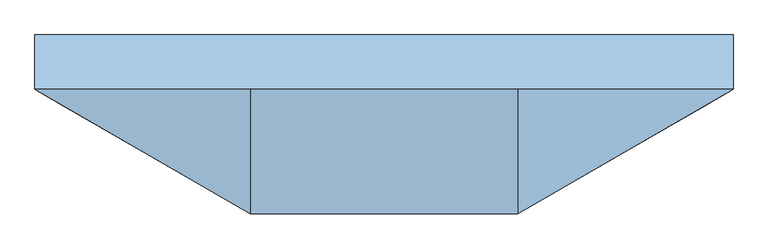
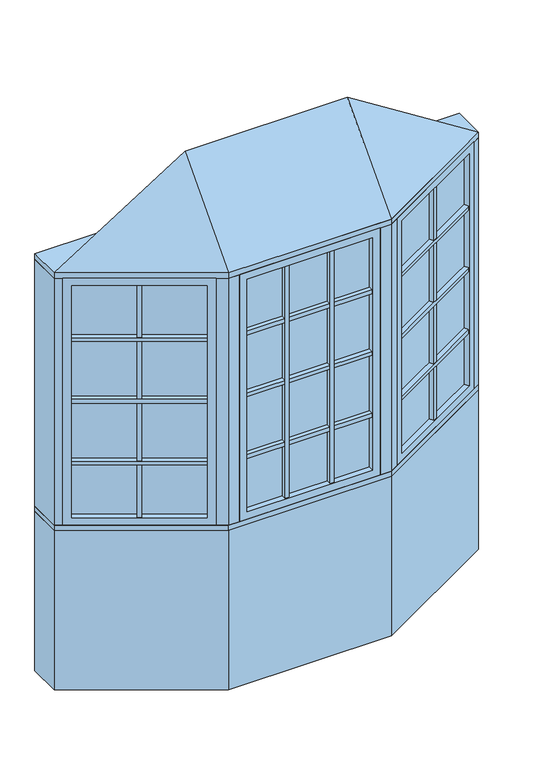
"""IFC4 building model written with IfcOpenShell, lengths in millimetres: window geometry, Pollard_Windows_Tudor Casement Bows and Bays : AML-BAY 30 AFR0612-08-600_GC."""

import ifcopenshell
import ifcopenshell.guid

model = None  # the IFC model being written
_history = None  # IfcOwnerHistory: only IFC2X3 demands one
_inside = {}  # id of a spatial element -> (the spatial element, [elements in it])
_under = {}  # id of a project, library or spatial element -> (it, [spatial elements below it])
_declared = {}  # id of a project -> (the project, [libraries it declares])
_typed = {}  # id of a type object -> (the type object, [elements of that type])
_made_of = {}  # id of a material, layer set ... -> (it, [elements and type objects made of it])


def new_model(schema):
    """Start an empty IFC model of exactly this schema.

    Asked for "IFC4X3", IfcOpenShell would pick the latest addendum, in which some entities
    have other attributes; the version numbers below select the first issue.
    IFC2X3 requires an IfcOwnerHistory on every rooted entity: one is made here for all.
    """
    global model, _history
    if schema == "IFC4X3":
        model = ifcopenshell.file(schema_version=(4, 3, 0, 0))
    else:
        model = ifcopenshell.file(schema=schema)
    _inside.clear()
    _under.clear()
    _declared.clear()
    _typed.clear()
    _made_of.clear()
    _history = None
    if model.schema == "IFC2X3":
        org = make("IfcOrganization", Name="unknown")
        user = make(
            "IfcPersonAndOrganization",
            ThePerson=make("IfcPerson", FamilyName="unknown"),
            TheOrganization=org,
        )
        app = make(
            "IfcApplication",
            ApplicationDeveloper=org,
            Version="unknown",
            ApplicationFullName="unknown",
            ApplicationIdentifier="unknown",
        )
        _history = make(
            "IfcOwnerHistory",
            OwningUser=user,
            OwningApplication=app,
            ChangeAction="ADDED",
            CreationDate=0,
        )
    return model


def make(cls, **values):
    """One entity of the class cls with the attributes given. An attribute that is None is left unset."""
    return model.create_entity(
        cls, **{name: value for name, value in values.items() if value is not None}
    )


def rooted(cls, **values):
    """An entity with a GlobalId (a new one), such as an element, a storey or a relation."""
    return make(cls, GlobalId=ifcopenshell.guid.new(), OwnerHistory=_history, **values)


def si_unit(unit_type, name, prefix=None):
    """IfcSIUnit, for example si_unit("LENGTHUNIT", "METRE", prefix="MILLI")."""
    return make("IfcSIUnit", UnitType=unit_type, Prefix=prefix, Name=name)


def assignment(units):
    """IfcUnitAssignment: the units of a project."""
    return None if units is None else make("IfcUnitAssignment", Units=units)


def point(xyz):
    """IfcCartesianPoint."""
    return None if xyz is None else make("IfcCartesianPoint", Coordinates=xyz)


def direction(xyz):
    """IfcDirection."""
    return None if xyz is None else make("IfcDirection", DirectionRatios=xyz)


def frame(location, z_axis=None, x_axis=None):
    """IfcAxis2Placement3D, a coordinate frame: its origin and axes. An axis left out is left unset."""
    return make(
        "IfcAxis2Placement3D",
        Location=point(location),
        Axis=direction(z_axis),
        RefDirection=direction(x_axis),
    )


def origin():
    """The frame at (0, 0, 0) with its axes left unset."""
    return frame((0.0, 0.0, 0.0))


def origin_with_axes():
    """The frame at (0, 0, 0) with the z axis (0, 0, 1) and the x axis (1, 0, 0) written out."""
    return frame((0.0, 0.0, 0.0), z_axis=(0.0, 0.0, 1.0), x_axis=(1.0, 0.0, 0.0))


def place(relative_to, where):
    """IfcLocalPlacement: puts the frame where relative to a parent placement (None: the world)."""
    return make(
        "IfcLocalPlacement", PlacementRelTo=relative_to, RelativePlacement=where
    )


def context(
    kind, dimensions, precision=None, world=None, true_north=None, identifier=None
):
    """IfcGeometricRepresentationContext, for example the 3D "Model" context."""
    return make(
        "IfcGeometricRepresentationContext",
        ContextIdentifier=identifier,
        ContextType=kind,
        CoordinateSpaceDimension=dimensions,
        Precision=precision,
        WorldCoordinateSystem=world,
        TrueNorth=true_north,
    )


def project(units=None, contexts=None):
    """IfcProject with its units and contexts."""
    return rooted(
        "IfcProject",
        Name="project",
        RepresentationContexts=contexts,
        UnitsInContext=assignment(units),
    )


def spatial(cls, under=None, at=None, **own):
    """A site, building, storey or space (cls), placed at a placement, below another one or the project."""
    s = rooted(cls, ObjectPlacement=at, **own)
    if under is not None:
        _under.setdefault(under.id(), (under, []))[1].append(s)
    return s


def polyline(points):
    """IfcPolyline through the points."""
    return make("IfcPolyline", Points=[point(p) for p in points])


def outline(outer, holes=None, kind="AREA"):
    """IfcArbitraryClosedProfileDef: a profile drawn as a closed curve; with holes, ...WithVoids."""
    if holes is None:
        return make("IfcArbitraryClosedProfileDef", ProfileType=kind, OuterCurve=outer)
    return make(
        "IfcArbitraryProfileDefWithVoids",
        ProfileType=kind,
        OuterCurve=outer,
        InnerCurves=holes,
    )


def extrude(swept, where, along, depth):
    """IfcExtrudedAreaSolid: the profile swept, set in the frame where, extruded along a direction by depth."""
    return make(
        "IfcExtrudedAreaSolid",
        SweptArea=swept,
        Position=where,
        ExtrudedDirection=direction(along),
        Depth=depth,
    )


def faces_of(points, faces, orient=None, outer=None):
    """IfcFace entities. A face is a list of loops; a loop is a list of indices into points, from 0.

    orient and outer hold one flag for each loop. By default every Orientation is true, the
    first loop of a face is its IfcFaceOuterBound and the others are IfcFaceBound.
    """
    made = []
    for i, loops in enumerate(faces):
        bounds = []
        for j, loop in enumerate(loops):
            is_outer = j == 0 if outer is None else outer[i][j]
            bounds.append(
                make(
                    "IfcFaceOuterBound" if is_outer else "IfcFaceBound",
                    Bound=make("IfcPolyLoop", Polygon=[points[k] for k in loop]),
                    Orientation=True if orient is None else orient[i][j],
                )
            )
        made.append(make("IfcFace", Bounds=bounds))
    return made


def faceted_brep(points, faces, orient=None, outer=None, voids=None):
    """IfcFacetedBrep: a solid bounded by flat faces; with voids (closed shells), ...WithVoids."""
    shared = [point(p) for p in points]
    hull = make("IfcClosedShell", CfsFaces=faces_of(shared, faces, orient, outer))
    if voids is None:
        return make("IfcFacetedBrep", Outer=hull)
    return make(
        "IfcFacetedBrepWithVoids",
        Outer=hull,
        Voids=[
            make(cls, CfsFaces=faces_of(shared, fs, o, b)) for cls, fs, o, b in voids
        ],
    )


def shape(context_of_items, identifier, shape_type, items):
    """IfcShapeRepresentation: the items that make up one representation, for example the "Body"."""
    return make(
        "IfcShapeRepresentation",
        ContextOfItems=context_of_items,
        RepresentationIdentifier=identifier,
        RepresentationType=shape_type,
        Items=items,
    )


def source(mapping_origin, context_of_items, identifier, shape_type, items):
    """IfcRepresentationMap: a shape defined once, which mapped items show again and again."""
    return make(
        "IfcRepresentationMap",
        MappingOrigin=mapping_origin,
        MappedRepresentation=shape(context_of_items, identifier, shape_type, items),
    )


def transform(
    local_origin,
    x_axis=None,
    y_axis=None,
    z_axis=None,
    scale=None,
    scale2=None,
    scale3=None,
    uniform=True,
):
    """IfcCartesianTransformationOperator3D, or its non-uniform kind. x_axis, y_axis, z_axis: its Axis1, 2, 3."""
    if uniform:
        return make(
            "IfcCartesianTransformationOperator3D",
            Axis1=direction(x_axis),
            Axis2=direction(y_axis),
            LocalOrigin=point(local_origin),
            Scale=scale,
            Axis3=direction(z_axis),
        )
    return make(
        "IfcCartesianTransformationOperator3DnonUniform",
        Axis1=direction(x_axis),
        Axis2=direction(y_axis),
        LocalOrigin=point(local_origin),
        Scale=scale,
        Axis3=direction(z_axis),
        Scale2=scale2,
        Scale3=scale3,
    )


def mapped(mapping_source, mapping_target):
    """IfcMappedItem: shows the shape of a source again, moved by a transform."""
    return make(
        "IfcMappedItem", MappingSource=mapping_source, MappingTarget=mapping_target
    )


def made_of(thing, what):
    """Note that an element or type object is made of a material, layer set ...; save() writes the relation."""
    if what is not None:
        _made_of.setdefault(what.id(), (what, []))[1].append(thing)
    return thing


def element(
    cls,
    number,
    at=None,
    inside=None,
    cuts=None,
    type_object=None,
    material=None,
    context=None,
    identifier="Body",
    shape_type=None,
    held_by="IfcProductDefinitionShape",
    body=None,
    shapes=None,
    **own,
):
    """One element of the class cls, such as IfcWall. Its Tag is "e" and its number.

    at: its placement. inside: the storey or other place that contains it. cuts: it is an
    opening in that element (IfcRelVoidsElement). A single representation is given by context,
    identifier, shape_type and body (its items); several are given by shapes. held_by: the class
    of the entity that holds the representations. save() writes the other relations.
    """
    e = rooted(cls, Tag="e%d" % number, ObjectPlacement=at, **own)
    if body is not None:
        shapes = [shape(context, identifier, shape_type, body)]
    if shapes is not None:
        e.Representation = make(held_by, Representations=shapes)
    if inside is not None:
        _inside.setdefault(inside.id(), (inside, []))[1].append(e)
    if cuts is not None:
        rooted(
            "IfcRelVoidsElement", RelatingBuildingElement=cuts, RelatedOpeningElement=e
        )
    if type_object is not None:
        _typed.setdefault(type_object.id(), (type_object, []))[1].append(e)
    return made_of(e, material)


def aggregate(whole, parts):
    """IfcRelAggregates: a whole, such as a stair, and the parts it consists of."""
    return rooted("IfcRelAggregates", RelatingObject=whole, RelatedObjects=parts)


def save(model, path):
    """Write the relations noted so far, then the file.

    IfcRelAggregates (storeys below a building ...), IfcRelContainedInSpatialStructure (elements
    in a storey), IfcRelDefinesByType, IfcRelAssociatesMaterial and IfcRelDeclares: one each for
    every whole, place, type object, material and project.
    """
    for whole, parts in _under.values():
        aggregate(whole, parts)
    for where, things in _inside.values():
        rooted(
            "IfcRelContainedInSpatialStructure",
            RelatedElements=things,
            RelatingStructure=where,
        )
    for kind, things in _typed.values():
        rooted("IfcRelDefinesByType", RelatedObjects=things, RelatingType=kind)
    for what, things in _made_of.values():
        rooted("IfcRelAssociatesMaterial", RelatedObjects=things, RelatingMaterial=what)
    for by, libraries in _declared.values():
        rooted("IfcRelDeclares", RelatingContext=by, RelatedDefinitions=libraries)
    model.write(path)


def window_be9948ae(model_context):
    return source(origin(), model_context, "Body", "SolidModel", [
        extrude(outline(polyline([(446.881999, -376.6297343), (435.881999, -357.5771754), (902.1135794, -88.3982469), (913.1135794, -107.4508058), (446.881999, -376.6297343)])), frame((0.0, 0.0, 1390.998), z_axis=(0.0, 0.0, 1.0), x_axis=(1.0, 0.0, 0.0)), (0.0, 0.0, 1.0), 18.0),
        extrude(outline(polyline([(433.341999, -353.1777664), (422.341999, -334.1252075), (888.5735794, -64.946279), (899.5735794, -83.9988379), (433.341999, -353.1777664)])), frame((0.0, 0.0, 1390.998), z_axis=(0.0, 0.0, 1.0), x_axis=(1.0, 0.0, 0.0)), (0.0, 0.0, 1.0), 18.0),
        extrude(outline(polyline([(446.881999, -376.6297343), (435.881999, -357.5771754), (902.1135794, -88.3982469), (913.1135794, -107.4508058), (446.881999, -376.6297343)])), frame((0.0, 0.0, 1090.998), z_axis=(0.0, 0.0, 1.0), x_axis=(1.0, 0.0, 0.0)), (0.0, 0.0, 1.0), 18.0),
        extrude(outline(polyline([(433.341999, -353.1777664), (422.341999, -334.1252075), (888.5735794, -64.946279), (899.5735794, -83.9988379), (433.341999, -353.1777664)])), frame((0.0, 0.0, 1090.998), z_axis=(0.0, 0.0, 1.0), x_axis=(1.0, 0.0, 0.0)), (0.0, 0.0, 1.0), 18.0),
        extrude(outline(polyline([(446.881999, -376.6297343), (435.881999, -357.5771754), (902.1135794, -88.3982469), (913.1135794, -107.4508058), (446.881999, -376.6297343)])), frame((0.0, 0.0, 1390.998), z_axis=(0.0, 0.0, 1.0), x_axis=(1.0, 0.0, 0.0)), (0.0, 0.0, 1.0), 18.0),
        extrude(outline(polyline([(433.341999, -353.1777664), (422.341999, -334.1252075), (888.5735794, -64.946279), (899.5735794, -83.9988379), (433.341999, -353.1777664)])), frame((0.0, 0.0, 1390.998), z_axis=(0.0, 0.0, 1.0), x_axis=(1.0, 0.0, 0.0)), (0.0, 0.0, 1.0), 18.0),
        extrude(outline(polyline([(446.881999, -376.6297343), (435.881999, -357.5771754), (902.1135794, -88.3982469), (913.1135794, -107.4508058), (446.881999, -376.6297343)])), frame((0.0, 0.0, 1390.998), z_axis=(0.0, 0.0, 1.0), x_axis=(1.0, 0.0, 0.0)), (0.0, 0.0, 1.0), 18.0),
        extrude(outline(polyline([(433.341999, -353.1777664), (422.341999, -334.1252075), (888.5735794, -64.946279), (899.5735794, -83.9988379), (433.341999, -353.1777664)])), frame((0.0, 0.0, 1390.998), z_axis=(0.0, 0.0, 1.0), x_axis=(1.0, 0.0, 0.0)), (0.0, 0.0, 1.0), 18.0),
        extrude(outline(polyline([(446.881999, -376.6297343), (435.881999, -357.5771754), (902.1135794, -88.3982469), (913.1135794, -107.4508058), (446.881999, -376.6297343)])), frame((0.0, 0.0, 1690.998), z_axis=(0.0, 0.0, 1.0), x_axis=(1.0, 0.0, 0.0)), (0.0, 0.0, 1.0), 18.0),
        extrude(outline(polyline([(433.341999, -353.1777664), (422.341999, -334.1252075), (888.5735794, -64.946279), (899.5735794, -83.9988379), (433.341999, -353.1777664)])), frame((0.0, 0.0, 1690.998), z_axis=(0.0, 0.0, 1.0), x_axis=(1.0, 0.0, 0.0)), (0.0, 0.0, 1.0), 18.0),
        extrude(outline(polyline([(676.7920178, -218.4877112), (687.7920178, -237.5402701), (672.2035606, -246.5402701), (661.2035606, -227.4877112), (676.7920178, -218.4877112)])), frame((0.0, 0.0, 835.8628), z_axis=(0.0, 0.0, 1.0), x_axis=(1.0, 0.0, 0.0)), (0.0, 0.0, 1.0), 1128.2704),
        extrude(outline(polyline([(674.2520178, -214.0883021), (658.6635606, -223.0883021), (647.6635606, -204.0357432), (663.2520178, -195.0357432), (674.2520178, -214.0883021)])), frame((0.0, 0.0, 835.8628), z_axis=(0.0, 0.0, 1.0), x_axis=(1.0, 0.0, 0.0)), (0.0, 0.0, 1.0), 1128.2704),
        extrude(outline(polyline([(913.112102, -82.0482469), (424.8834764, -363.9271754), (422.3434764, -359.5277664), (910.572102, -77.6488379), (913.112102, -82.0482469)])), frame((0.0, 0.0, 823.1628), z_axis=(0.0, 0.0, 1.0), x_axis=(1.0, 0.0, 0.0)), (0.0, 0.0, 1.0), 1153.6704),
        faceted_brep([(902.1135794, -88.3982469, 835.8628), (914.8135794, -110.3952922, 835.8628), (914.8135794, -110.3952922, 1964.1332), (902.1135794, -88.3982469, 1964.1332), (910.572102, -77.6488379, 823.1628), (913.112102, -82.0482469, 823.1628), (913.112102, -82.0482469, 1976.8332), (910.572102, -77.6488379, 1976.8332), (886.8735794, -62.0017926, 835.8628), (899.5735794, -83.9988379, 835.8628), (899.5735794, -83.9988379, 1964.1332), (886.8735794, -62.0017926, 1964.1332), (945.8734073, -92.4628922, 799.998), (917.9334073, -44.0693926, 799.998), (917.9334073, -44.0693926, 1999.998), (945.8734073, -92.4628922, 1999.998), (448.581999, -379.5742207, 1964.1332), (435.881999, -357.5771754, 1964.1332), (424.8834764, -363.9271754, 1976.8332), (422.3434764, -359.5277664, 1976.8332), (433.341999, -353.1777664, 1964.1332), (420.641999, -331.1807211, 1964.1332), (389.5821711, -349.1131211, 1999.998), (417.5221711, -397.5066207, 1999.998), (448.581999, -379.5742207, 835.8628), (435.881999, -357.5771754, 835.8628), (424.8834764, -363.9271754, 823.1628), (422.3434764, -359.5277664, 823.1628), (433.341999, -353.1777664, 835.8628), (420.641999, -331.1807211, 835.8628), (389.5821711, -349.1131211, 799.998), (417.5221711, -397.5066207, 799.998)], [[[0, 1, 2, 3]], [[4, 5, 6, 7]], [[8, 9, 10, 11]], [[12, 13, 14, 15]], [[3, 2, 16, 17]], [[7, 6, 18, 19]], [[11, 10, 20, 21]], [[15, 14, 22, 23]], [[17, 16, 24, 25]], [[19, 18, 26, 27]], [[21, 20, 28, 29]], [[23, 22, 30, 31]], [[25, 24, 1, 0]], [[5, 26, 18, 6], [3, 17, 25, 0]], [[27, 26, 5, 4]], [[7, 19, 27, 4], [9, 28, 20, 10]], [[29, 28, 9, 8]], [[13, 30, 22, 14], [11, 21, 29, 8]], [[31, 30, 13, 12]], [[15, 23, 31, 12], [1, 24, 16, 2]]]),
        extrude(outline(polyline([(112.352167, -397.1066207), (112.352167, -419.1066207), (94.352167, -419.1066207), (94.352167, -397.1066207), (112.352167, -397.1066207)])), frame((0.0, 0.0, 835.8628), z_axis=(0.0, 0.0, 1.0), x_axis=(1.0, 0.0, 0.0)), (0.0, 0.0, 1.0), 1128.2704),
        extrude(outline(polyline([(112.352167, -392.0266207), (94.352167, -392.0266207), (94.352167, -370.0266207), (112.352167, -370.0266207), (112.352167, -392.0266207)])), frame((0.0, 0.0, 835.8628), z_axis=(0.0, 0.0, 1.0), x_axis=(1.0, 0.0, 0.0)), (0.0, 0.0, 1.0), 1128.2704),
        extrude(outline(polyline([(-94.352167, -397.1066207), (-94.352167, -419.1066207), (-112.352167, -419.1066207), (-112.352167, -397.1066207), (-94.352167, -397.1066207)])), frame((0.0, 0.0, 835.8628), z_axis=(0.0, 0.0, 1.0), x_axis=(1.0, 0.0, 0.0)), (0.0, 0.0, 1.0), 1128.2704),
        extrude(outline(polyline([(-94.352167, -392.0266207), (-112.352167, -392.0266207), (-112.352167, -370.0266207), (-94.352167, -370.0266207), (-94.352167, -392.0266207)])), frame((0.0, 0.0, 835.8628), z_axis=(0.0, 0.0, 1.0), x_axis=(1.0, 0.0, 0.0)), (0.0, 0.0, 1.0), 1128.2704),
        extrude(outline(polyline([(-288.3561009, -419.1066207), (-288.3561009, -397.1066207), (288.3561009, -397.1066207), (288.3561009, -419.1066207), (-288.3561009, -419.1066207)])), frame((0.0, 0.0, 1090.998), z_axis=(0.0, 0.0, 1.0), x_axis=(1.0, 0.0, 0.0)), (0.0, 0.0, 1.0), 18.0),
        extrude(outline(polyline([(-288.3561009, -392.0266207), (-288.3561009, -370.0266207), (288.3561009, -370.0266207), (288.3561009, -392.0266207), (-288.3561009, -392.0266207)])), frame((0.0, 0.0, 1090.998), z_axis=(0.0, 0.0, 1.0), x_axis=(1.0, 0.0, 0.0)), (0.0, 0.0, 1.0), 18.0),
        extrude(outline(polyline([(-288.3561009, -419.1066207), (-288.3561009, -397.1066207), (288.3561009, -397.1066207), (288.3561009, -419.1066207), (-288.3561009, -419.1066207)])), frame((0.0, 0.0, 1390.998), z_axis=(0.0, 0.0, 1.0), x_axis=(1.0, 0.0, 0.0)), (0.0, 0.0, 1.0), 18.0),
        extrude(outline(polyline([(-288.3561009, -392.0266207), (-288.3561009, -370.0266207), (288.3561009, -370.0266207), (288.3561009, -392.0266207), (-288.3561009, -392.0266207)])), frame((0.0, 0.0, 1390.998), z_axis=(0.0, 0.0, 1.0), x_axis=(1.0, 0.0, 0.0)), (0.0, 0.0, 1.0), 18.0),
        extrude(outline(polyline([(-288.3561009, -419.1066207), (-288.3561009, -397.1066207), (288.3561009, -397.1066207), (288.3561009, -419.1066207), (-288.3561009, -419.1066207)])), frame((0.0, 0.0, 1390.998), z_axis=(0.0, 0.0, 1.0), x_axis=(1.0, 0.0, 0.0)), (0.0, 0.0, 1.0), 18.0),
        extrude(outline(polyline([(-288.3561009, -392.0266207), (-288.3561009, -370.0266207), (288.3561009, -370.0266207), (288.3561009, -392.0266207), (-288.3561009, -392.0266207)])), frame((0.0, 0.0, 1390.998), z_axis=(0.0, 0.0, 1.0), x_axis=(1.0, 0.0, 0.0)), (0.0, 0.0, 1.0), 18.0),
        extrude(outline(polyline([(-288.3561009, -419.1066207), (-288.3561009, -397.1066207), (288.3561009, -397.1066207), (288.3561009, -419.1066207), (-288.3561009, -419.1066207)])), frame((0.0, 0.0, 1390.998), z_axis=(0.0, 0.0, 1.0), x_axis=(1.0, 0.0, 0.0)), (0.0, 0.0, 1.0), 18.0),
        extrude(outline(polyline([(-288.3561009, -392.0266207), (-288.3561009, -370.0266207), (288.3561009, -370.0266207), (288.3561009, -392.0266207), (-288.3561009, -392.0266207)])), frame((0.0, 0.0, 1390.998), z_axis=(0.0, 0.0, 1.0), x_axis=(1.0, 0.0, 0.0)), (0.0, 0.0, 1.0), 18.0),
        extrude(outline(polyline([(-913.1135794, -107.4508058), (-902.1135794, -88.3982469), (-435.881999, -357.5771754), (-446.881999, -376.6297343), (-913.1135794, -107.4508058)])), frame((0.0, 0.0, 1090.998), z_axis=(0.0, 0.0, 1.0), x_axis=(1.0, 0.0, 0.0)), (0.0, 0.0, 1.0), 18.0),
        extrude(outline(polyline([(-899.5735794, -83.9988379), (-888.5735794, -64.946279), (-422.341999, -334.1252075), (-433.341999, -353.1777664), (-899.5735794, -83.9988379)])), frame((0.0, 0.0, 1090.998), z_axis=(0.0, 0.0, 1.0), x_axis=(1.0, 0.0, 0.0)), (0.0, 0.0, 1.0), 18.0),
        extrude(outline(polyline([(-913.1135794, -107.4508058), (-902.1135794, -88.3982469), (-435.881999, -357.5771754), (-446.881999, -376.6297343), (-913.1135794, -107.4508058)])), frame((0.0, 0.0, 1390.998), z_axis=(0.0, 0.0, 1.0), x_axis=(1.0, 0.0, 0.0)), (0.0, 0.0, 1.0), 18.0),
        extrude(outline(polyline([(-899.5735794, -83.9988379), (-888.5735794, -64.946279), (-422.341999, -334.1252075), (-433.341999, -353.1777664), (-899.5735794, -83.9988379)])), frame((0.0, 0.0, 1390.998), z_axis=(0.0, 0.0, 1.0), x_axis=(1.0, 0.0, 0.0)), (0.0, 0.0, 1.0), 18.0),
        extrude(outline(polyline([(-913.1135794, -107.4508058), (-902.1135794, -88.3982469), (-435.881999, -357.5771754), (-446.881999, -376.6297343), (-913.1135794, -107.4508058)])), frame((0.0, 0.0, 1390.998), z_axis=(0.0, 0.0, 1.0), x_axis=(1.0, 0.0, 0.0)), (0.0, 0.0, 1.0), 18.0),
        extrude(outline(polyline([(-899.5735794, -83.9988379), (-888.5735794, -64.946279), (-422.341999, -334.1252075), (-433.341999, -353.1777664), (-899.5735794, -83.9988379)])), frame((0.0, 0.0, 1390.998), z_axis=(0.0, 0.0, 1.0), x_axis=(1.0, 0.0, 0.0)), (0.0, 0.0, 1.0), 18.0),
        extrude(outline(polyline([(-913.1135794, -107.4508058), (-902.1135794, -88.3982469), (-435.881999, -357.5771754), (-446.881999, -376.6297343), (-913.1135794, -107.4508058)])), frame((0.0, 0.0, 1390.998), z_axis=(0.0, 0.0, 1.0), x_axis=(1.0, 0.0, 0.0)), (0.0, 0.0, 1.0), 18.0),
        extrude(outline(polyline([(-899.5735794, -83.9988379), (-888.5735794, -64.946279), (-422.341999, -334.1252075), (-433.341999, -353.1777664), (-899.5735794, -83.9988379)])), frame((0.0, 0.0, 1390.998), z_axis=(0.0, 0.0, 1.0), x_axis=(1.0, 0.0, 0.0)), (0.0, 0.0, 1.0), 18.0),
        extrude(outline(polyline([(-913.1135794, -107.4508058), (-902.1135794, -88.3982469), (-435.881999, -357.5771754), (-446.881999, -376.6297343), (-913.1135794, -107.4508058)])), frame((0.0, 0.0, 1690.998), z_axis=(0.0, 0.0, 1.0), x_axis=(1.0, 0.0, 0.0)), (0.0, 0.0, 1.0), 18.0),
        extrude(outline(polyline([(-899.5735794, -83.9988379), (-888.5735794, -64.946279), (-422.341999, -334.1252075), (-433.341999, -353.1777664), (-899.5735794, -83.9988379)])), frame((0.0, 0.0, 1690.998), z_axis=(0.0, 0.0, 1.0), x_axis=(1.0, 0.0, 0.0)), (0.0, 0.0, 1.0), 18.0),
        extrude(outline(polyline([(-288.3561009, -419.1066207), (-288.3561009, -397.1066207), (288.3561009, -397.1066207), (288.3561009, -419.1066207), (-288.3561009, -419.1066207)])), frame((0.0, 0.0, 1690.998), z_axis=(0.0, 0.0, 1.0), x_axis=(1.0, 0.0, 0.0)), (0.0, 0.0, 1.0), 18.0),
        extrude(outline(polyline([(-288.3561009, -392.0266207), (-288.3561009, -370.0266207), (288.3561009, -370.0266207), (288.3561009, -392.0266207), (-288.3561009, -392.0266207)])), frame((0.0, 0.0, 1690.998), z_axis=(0.0, 0.0, 1.0), x_axis=(1.0, 0.0, 0.0)), (0.0, 0.0, 1.0), 18.0),
        extrude(outline(polyline([(-661.2035606, -227.4877112), (-672.2035606, -246.5402701), (-687.7920178, -237.5402701), (-676.7920178, -218.4877112), (-661.2035606, -227.4877112)])), frame((0.0, 0.0, 835.8628), z_axis=(0.0, 0.0, 1.0), x_axis=(1.0, 0.0, 0.0)), (0.0, 0.0, 1.0), 1128.2704),
        extrude(outline(polyline([(-658.6635606, -223.0883021), (-674.2520178, -214.0883021), (-663.2520178, -195.0357432), (-647.6635606, -204.0357432), (-658.6635606, -223.0883021)])), frame((0.0, 0.0, 835.8628), z_axis=(0.0, 0.0, 1.0), x_axis=(1.0, 0.0, 0.0)), (0.0, 0.0, 1.0), 1128.2704),
        extrude(outline(polyline([(-424.8834764, -363.9271754), (-913.112102, -82.0482469), (-910.572102, -77.6488379), (-422.3434764, -359.5277664), (-424.8834764, -363.9271754)])), frame((0.0, 0.0, 823.1628), z_axis=(0.0, 0.0, 1.0), x_axis=(1.0, 0.0, 0.0)), (0.0, 0.0, 1.0), 1153.6704),
        faceted_brep([(-433.341999, -353.1777664, 1964.1332), (-420.641999, -331.1807211, 1964.1332), (-420.641999, -331.1807211, 835.8628), (-433.341999, -353.1777664, 835.8628), (-424.8834764, -363.9271754, 1976.8332), (-422.3434764, -359.5277664, 1976.8332), (-422.3434764, -359.5277664, 823.1628), (-424.8834764, -363.9271754, 823.1628), (-448.581999, -379.5742207, 1964.1332), (-435.881999, -357.5771754, 1964.1332), (-435.881999, -357.5771754, 835.8628), (-448.581999, -379.5742207, 835.8628), (-389.5821711, -349.1131211, 1999.998), (-417.5221711, -397.5066207, 1999.998), (-417.5221711, -397.5066207, 799.998), (-389.5821711, -349.1131211, 799.998), (-886.8735794, -62.0017926, 835.8628), (-899.5735794, -83.9988379, 835.8628), (-910.572102, -77.6488379, 823.1628), (-913.112102, -82.0482469, 823.1628), (-902.1135794, -88.3982469, 835.8628), (-914.8135794, -110.3952922, 835.8628), (-945.8734073, -92.4628922, 799.998), (-917.9334073, -44.0693926, 799.998), (-886.8735794, -62.0017926, 1964.1332), (-899.5735794, -83.9988379, 1964.1332), (-910.572102, -77.6488379, 1976.8332), (-913.112102, -82.0482469, 1976.8332), (-902.1135794, -88.3982469, 1964.1332), (-914.8135794, -110.3952922, 1964.1332), (-945.8734073, -92.4628922, 1999.998), (-917.9334073, -44.0693926, 1999.998)], [[[0, 1, 2, 3]], [[4, 5, 6, 7]], [[8, 9, 10, 11]], [[12, 13, 14, 15]], [[3, 2, 16, 17]], [[7, 6, 18, 19]], [[11, 10, 20, 21]], [[15, 14, 22, 23]], [[17, 16, 24, 25]], [[19, 18, 26, 27]], [[21, 20, 28, 29]], [[23, 22, 30, 31]], [[15, 23, 31, 12], [1, 24, 16, 2]], [[25, 24, 1, 0]], [[5, 26, 18, 6], [3, 17, 25, 0]], [[27, 26, 5, 4]], [[7, 19, 27, 4], [9, 28, 20, 10]], [[29, 28, 9, 8]], [[13, 30, 22, 14], [11, 21, 29, 8]], [[31, 30, 13, 12]]]),
        extrude(outline(polyline([(301.0561009, -397.1066207), (-301.0561009, -397.1066207), (-301.0561009, -392.0266207), (301.0561009, -392.0266207), (301.0561009, -397.1066207)])), frame((0.0, 0.0, 823.1628), z_axis=(0.0, 0.0, 1.0), x_axis=(1.0, 0.0, 0.0)), (0.0, 0.0, 1.0), 1153.6704),
        faceted_brep([(288.3561009, -397.1066207, 835.8628), (288.3561009, -422.5066207, 835.8628), (288.3561009, -422.5066207, 1964.1332), (288.3561009, -397.1066207, 1964.1332), (301.0561009, -392.0266207, 823.1628), (301.0561009, -397.1066207, 823.1628), (301.0561009, -397.1066207, 1976.8332), (301.0561009, -392.0266207, 1976.8332), (288.3561009, -366.6266207, 835.8628), (288.3561009, -392.0266207, 835.8628), (288.3561009, -392.0266207, 1964.1332), (288.3561009, -366.6266207, 1964.1332), (324.2209009, -422.5066207, 799.998), (324.2209009, -366.6266207, 799.998), (324.2209009, -366.6266207, 1999.998), (324.2209009, -422.5066207, 1999.998), (-288.3561009, -422.5066207, 1964.1332), (-288.3561009, -397.1066207, 1964.1332), (-301.0561009, -397.1066207, 1976.8332), (-301.0561009, -392.0266207, 1976.8332), (-288.3561009, -392.0266207, 1964.1332), (-288.3561009, -366.6266207, 1964.1332), (-324.2209009, -366.6266207, 1999.998), (-324.2209009, -422.5066207, 1999.998), (-288.3561009, -422.5066207, 835.8628), (-288.3561009, -397.1066207, 835.8628), (-301.0561009, -397.1066207, 823.1628), (-301.0561009, -392.0266207, 823.1628), (-288.3561009, -392.0266207, 835.8628), (-288.3561009, -366.6266207, 835.8628), (-324.2209009, -366.6266207, 799.998), (-324.2209009, -422.5066207, 799.998)], [[[0, 1, 2, 3]], [[4, 5, 6, 7]], [[8, 9, 10, 11]], [[12, 13, 14, 15]], [[3, 2, 16, 17]], [[7, 6, 18, 19]], [[11, 10, 20, 21]], [[15, 14, 22, 23]], [[17, 16, 24, 25]], [[19, 18, 26, 27]], [[21, 20, 28, 29]], [[23, 22, 30, 31]], [[15, 23, 31, 12], [1, 24, 16, 2]], [[25, 24, 1, 0]], [[5, 26, 18, 6], [3, 17, 25, 0]], [[27, 26, 5, 4]], [[7, 19, 27, 4], [9, 28, 20, 10]], [[29, 28, 9, 8]], [[13, 30, 22, 14], [11, 21, 29, 8]], [[31, 30, 13, 12]]]),
        faceted_brep([(976.5, -74.7806207, 2025.398), (374.2209009, -422.5066207, 2025.398), (-374.2209009, -422.5066207, 2025.398), (-976.5, -74.7806207, 2025.398), (-374.2209009, -74.7806207, 2406.398), (374.2209009, -74.7806207, 2406.398)], [[[0, 1, 2, 3]], [[3, 2, 4]], [[2, 1, 5, 4]], [[1, 0, 5]], [[0, 3, 4, 5]]]),
        extrude(outline(polyline([(-976.5, 77.6193793), (976.5, 77.6193793), (976.5, -74.7806207), (374.2209009, -422.5066207), (-374.2209009, -422.5066207), (-976.5, -74.7806207), (-976.5, 77.6193793)])), frame((0.0, 0.0, 1999.998), z_axis=(0.0, 0.0, 1.0), x_axis=(1.0, 0.0, 0.0)), (0.0, 0.0, 1.0), 25.4),
        extrude(outline(polyline([(-976.5, -74.7806207), (-976.5, 77.6193793), (-935.6645431, 77.6193793), (-935.6645431, -74.7806207), (-945.8734073, -92.4628922), (-976.5, -74.7806207)])), frame((0.0, 0.0, 799.998), z_axis=(0.0, 0.0, 1.0), x_axis=(1.0, 0.0, 0.0)), (0.0, 0.0, 1.0), 1200.0),
        extrude(outline(polyline([(976.5, 77.6193793), (976.5, -74.7806207), (945.8734073, -92.4628922), (935.6645431, -74.7806207), (935.6645431, 77.6193793), (976.5, 77.6193793)])), frame((0.0, 0.0, 799.998), z_axis=(0.0, 0.0, 1.0), x_axis=(1.0, 0.0, 0.0)), (0.0, 0.0, 1.0), 1200.0),
        extrude(outline(polyline([(374.2209009, -422.5066207), (324.2209009, -422.5066207), (324.2209009, -372.5066207), (360.8234413, -372.5066207), (392.5221711, -354.2053505), (417.5221711, -397.5066207), (374.2209009, -422.5066207)])), frame((0.0, 0.0, 799.998), z_axis=(0.0, 0.0, 1.0), x_axis=(1.0, 0.0, 0.0)), (0.0, 0.0, 1.0), 1200.0),
        extrude(outline(polyline([(-374.2209009, -422.5066207), (-417.5221711, -397.5066207), (-392.5221711, -354.2053505), (-360.8234413, -372.5066207), (-324.2209009, -372.5066207), (-324.2209009, -422.5066207), (-374.2209009, -422.5066207)])), frame((0.0, 0.0, 799.998), z_axis=(0.0, 0.0, 1.0), x_axis=(1.0, 0.0, 0.0)), (0.0, 0.0, 1.0), 1200.0),
        extrude(outline(polyline([(-374.2209009, -422.5066207), (-976.5, -74.7806207), (-976.5, 77.6193793), (-935.6645431, 77.6193793), (-333.385444, -270.1066207), (333.385444, -270.1066207), (935.6645431, 77.6193793), (976.5, 77.6193793), (976.5, -74.7806207), (374.2209009, -422.5066207), (-374.2209009, -422.5066207)])), frame((0.0, 0.0, 774.598), z_axis=(0.0, 0.0, 1.0), x_axis=(1.0, 0.0, 0.0)), (0.0, 0.0, 1.0), 25.4),
        extrude(outline(polyline([(-976.5, -74.7806207), (-976.5, 77.6193793), (-935.6645431, 77.6193793), (-333.385444, -270.1066207), (333.385444, -270.1066207), (935.6645431, 77.6193793), (976.5, 77.6193793), (976.5, -74.7806207), (374.2209009, -422.5066207), (-374.2209009, -422.5066207), (-976.5, -74.7806207)])), origin_with_axes(), (0.0, 0.0, 1.0), 774.598),
    ])


if __name__ == "__main__":
    model = new_model("IFC4")
    model_context = context("Model", 3, world=origin())
    ifc_project = project(units=[si_unit("LENGTHUNIT", "METRE", prefix="MILLI")], contexts=[model_context])
    site = spatial("IfcSite", under=ifc_project)
    building = spatial("IfcBuilding", under=site)
    placement = place(None, origin())
    window_shape = window_be9948ae(model_context)
    element("IfcWindow", 1, ObjectType="Pollard_Windows_Tudor Casement Bows and Bays : AML-BAY 30 AFR0612-08-600_GC", at=placement, inside=building, context=model_context, shape_type="MappedRepresentation", body=[
        mapped(window_shape, transform((0.0, 0.0, 0.0), x_axis=(1.0, 0.0, 0.0), y_axis=(0.0, 1.0, 0.0), z_axis=(0.0, 0.0, 1.0))),
    ])
    save(model, "model.ifc")
